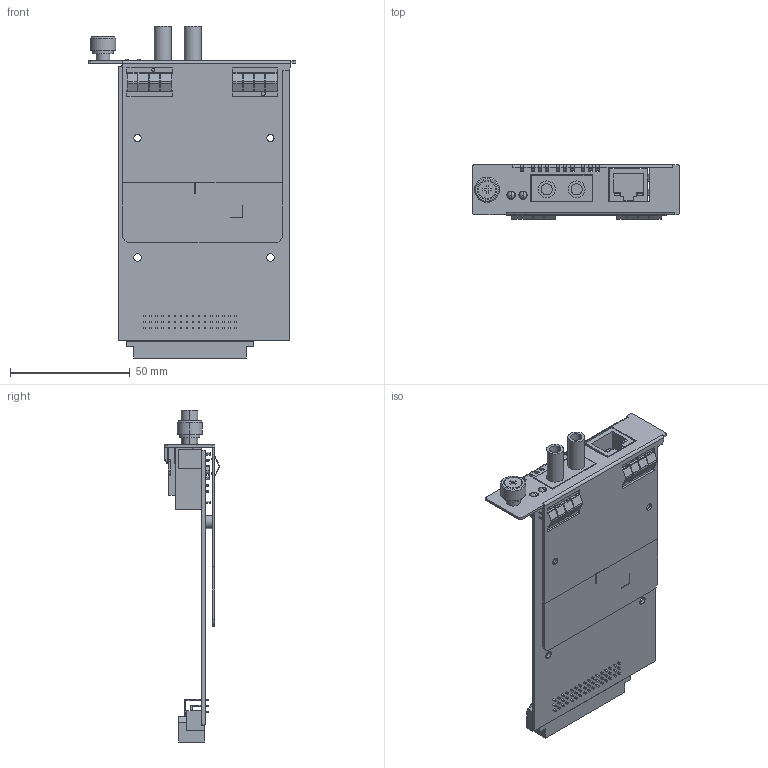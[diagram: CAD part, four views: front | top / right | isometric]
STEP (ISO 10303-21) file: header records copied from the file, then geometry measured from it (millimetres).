
FILE_DESCRIPTION((''),'2;1');
FILE_NAME('3D_CSM-200-ST_ASM','2018-05-23T',('Vincent_Huang'),('PTC'),'PRO/ENGINEER BY PARAMETRIC TECHNOLOGY CORPORATION, 2013230','PRO/ENGINEER BY PARAMETRIC TECHNOLOGY CORPORATION, 2013230','');
FILE_SCHEMA(('AUTOMOTIVE_DESIGN { 1 0 10303 214 1 1 1 1 }'));
Length unit declared in the file: millimetre
Products named in the file (16): PRT0001; PRT0002; PRT0003; PRT0004; LUMP_29; PRT0005; PRT0006; LUMP_80; LUMP_121; BODY_7_ASM; BODY_6; PRT0007; PRT0008; PRT0009; PRT0010; 3D_CSM-200-ST_ASM
Assembly tree (15 placements, depth 3):
  3D_CSM-200-ST_ASM
    PRT0001
    PRT0002
    PRT0003
    PRT0004
    BODY_7_ASM
      LUMP_29
      PRT0005
      PRT0006
      LUMP_80
      LUMP_121
    BODY_6
    PRT0007
    PRT0008
    PRT0009
    PRT0010
Bounding box: 86.8 x 22.88 x 138.85 mm (x, y, z)
Volume: 36477.1 mm3; surface area: 45064.9 mm2
Topology: 14 solids, 14 shells, 1292 faces, 3324 edges, 2162 vertices
Faces by surface type: plane 1085, cylinder 201, bspline 4, cone 2
Entity records: 42978 total; most frequent: CARTESIAN_POINT 6919, ORIENTED_EDGE 6648, DIRECTION 6404, EDGE_CURVE 3324, VECTOR 2892, LINE 2892, VERTEX_POINT 2162, AXIS2_PLACEMENT_3D 1756
